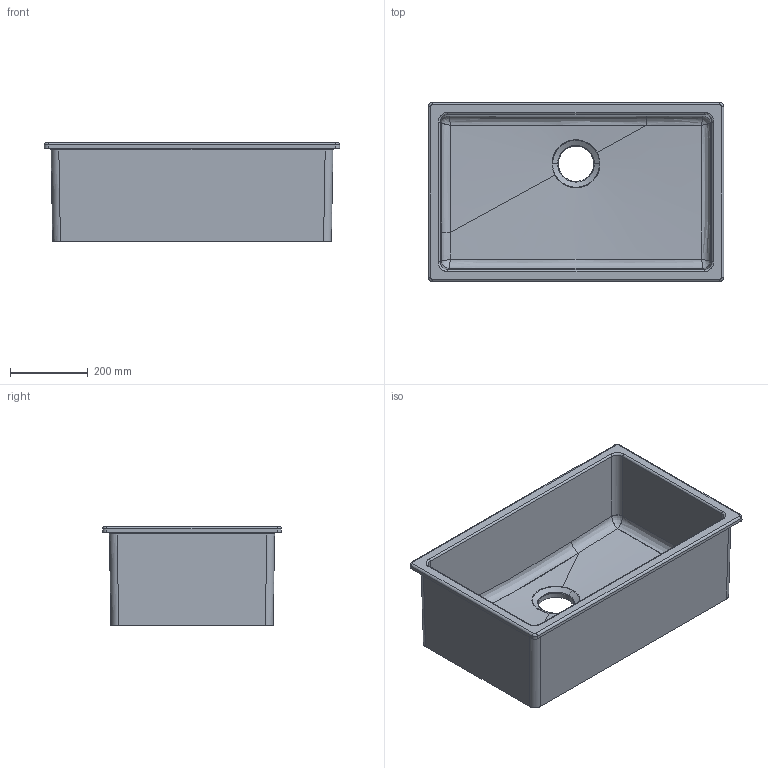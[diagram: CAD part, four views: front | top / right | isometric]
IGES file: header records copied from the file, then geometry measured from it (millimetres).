
Start section: START RECORD GO HERE.
Global section: file name: 3D ART 5124.igs; native system: DASSAULT SYSTEMES CATIA V5 R19 - www.3ds.com; preprocessor: CATIA Version 5 Release 19 SP 5 ; author: Luca; organization: DESKTOP-V7SON24; date: 20220210.120031; units: millimetre
Bounding box: 760 x 460 x 254 mm (x, y, z)
Surface area: 1792857.6 mm2 (no closed solid volume)
Topology: 0 solids, 0 shells, 297 faces, 1500 edges, 1496 vertices
Faces by surface type: bspline 141, revolution 120, plane 36
